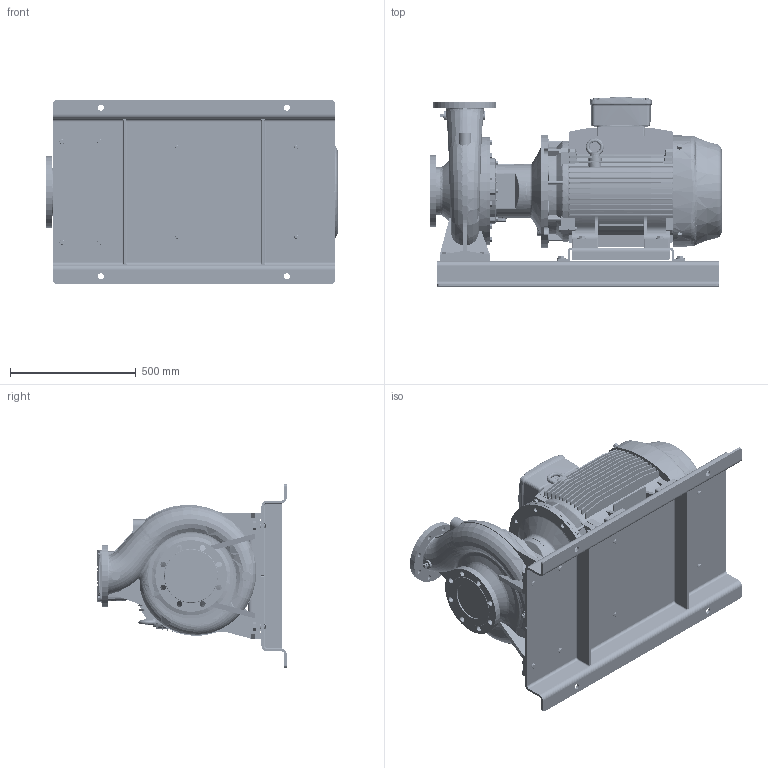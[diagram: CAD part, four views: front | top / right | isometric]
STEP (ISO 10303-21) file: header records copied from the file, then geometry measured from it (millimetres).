
FILE_DESCRIPTION (( 'STEP AP214' ), '1' );
FILE_NAME ('GSD4 125-315_37_(225SM)_W21_BP.STEP', '2026-05-08T03:48:20', ( '' ), ( '' ), 'SwSTEP 2.0', 'SolidWorks 2024', '' );
FILE_SCHEMA (( 'AUTOMOTIVE_DESIGN' ));
Length unit declared in the file: millimetre
Products named in the file (13): 225S_M4P IE3_W21T_B35; Parametric Flat Washer_M20; Parametric bolt and washer_SFT-A403B; GSD4 125-315_37_(225SM)_W21_BP; CGS11-5282; Parametric Flat Washer_M16; N9S4 GSDA-941 F1-1832973-00; Parametric bolt and washer_SFT-A359B; Parametric bolt_SFT-A351B; 125-315-225S_M_ﾃﾞﾌｫﾙﾄ; Parametric bolt_SFT-A359B; Parametric bolt and washer_SFT-A351B; Parametric bolt_SFT-A403B
Assembly tree (22 placements, depth 3):
  GSD4 125-315_37_(225SM)_W21_BP
    125-315-225S_M_ﾃﾞﾌｫﾙﾄ
    225S_M4P IE3_W21T_B35
    N9S4 GSDA-941 F1-1832973-00
    CGS11-5282
    Parametric bolt and washer_SFT-A403B  x4
      Parametric bolt_SFT-A403B
      Parametric Flat Washer_M20
    Parametric bolt and washer_SFT-A351B  x4
      Parametric bolt_SFT-A351B
      Parametric Flat Washer_M16
    Parametric bolt and washer_SFT-A359B  x4
      Parametric bolt_SFT-A359B
      Parametric Flat Washer_M16
Bounding box: 1164.5 x 753 x 730 mm (x, y, z)
Volume: 156198440.9 mm3; surface area: 7371932.1 mm2
Topology: 35 solids, 40 shells, 4335 faces, 11415 edges, 7286 vertices
Faces by surface type: plane 1775, cylinder 1511, cone 492, bspline 297, torus 242, sphere 18
Entity records: 173315 total; most frequent: CARTESIAN_POINT 84178, ORIENTED_EDGE 19508, DIRECTION 17661, EDGE_CURVE 9754, AXIS2_PLACEMENT_3D 6413, VERTEX_POINT 6215, LINE 4835, VECTOR 4835
